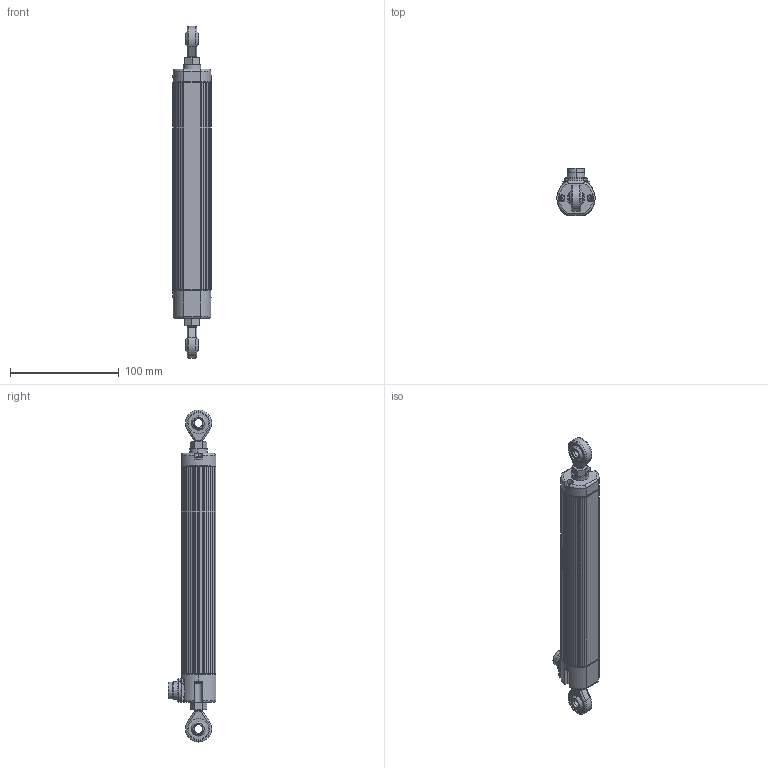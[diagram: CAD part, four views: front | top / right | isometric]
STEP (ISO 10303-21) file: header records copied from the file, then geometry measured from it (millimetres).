
FILE_DESCRIPTION (( 'STEP AP214' ), '1' );
FILE_NAME ('RC35_100_S_IP65.STEP', '2013-01-14T12:29:14', ( '' ), ( '' ), 'SwSTEP 2.0', 'SolidWorks 2012', '' );
FILE_SCHEMA (( 'AUTOMOTIVE_DESIGN' ));
Length unit declared in the file: millimetre
Products named in the file (16): hex nut style 1 gradeab_iso_Hexagon Nut ISO - 4032 - M8 - D - S; Scheibe_d8_D16_t4_Washer ISO 7089 - 8; pan head cross recess screw_iso_ISO 7045 - M2.5 x 8 - Z --- 8S; MIM862X_MIM862; TES090X; TES055X; GUA012X; GUA015X; TES058X; Gelenkkopf_MA8_D8; SND008-1X; SND008-2X; Schubstange_RC35-100_IP65; Gehäuse_RC35-100-S-IP65; RC35_100_S_IP65; Flanschstecker_M16_5pol
Assembly tree (23 placements, depth 3):
  RC35_100_S_IP65
    Gehäuse_RC35-100-S-IP65
    Schubstange_RC35-100_IP65
    Gelenkkopf_MA8_D8  x2
      SND008-2X
      SND008-1X
    TES058X
    GUA015X
    GUA012X
    TES055X
    TES090X
    MIM862X_MIM862  x4
    pan head cross recess screw_iso_ISO 7045 - M2.5 x 8 - Z --- 8S  x4
    Scheibe_d8_D16_t4_Washer ISO 7089 - 8
    hex nut style 1 gradeab_iso_Hexagon Nut ISO - 4032 - M8 - D - S  x2
    Flanschstecker_M16_5pol
Bounding box: 35 x 43.4 x 305 mm (x, y, z)
Volume: 233442.5 mm3; surface area: 59822.2 mm2
Topology: 23 solids, 23 shells, 2469 faces, 6413 edges, 4002 vertices
Faces by surface type: cone 1081, cylinder 699, plane 472, bspline 137, torus 56, sphere 24
Entity records: 46019 total; most frequent: CARTESIAN_POINT 13860, DIRECTION 6463, ORIENTED_EDGE 6322, EDGE_CURVE 3161, AXIS2_PLACEMENT_3D 2509, VERTEX_POINT 2016, LINE 1445, VECTOR 1445
